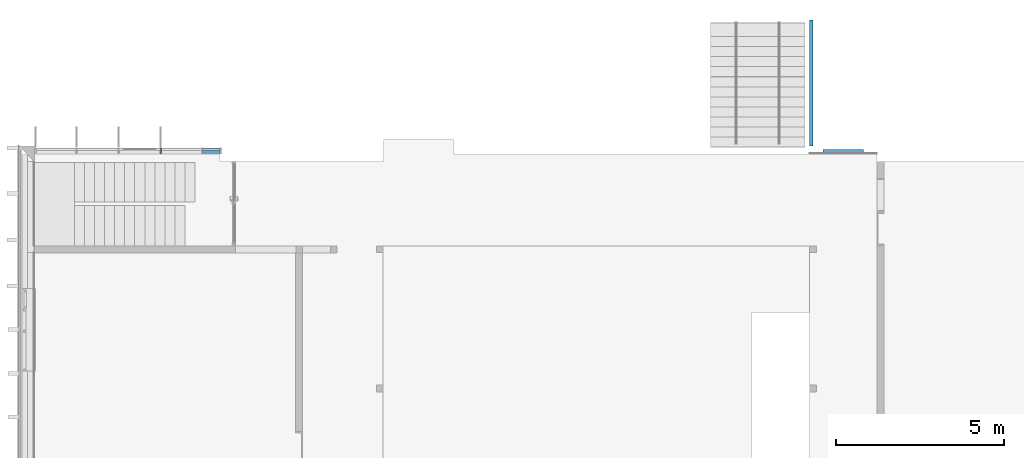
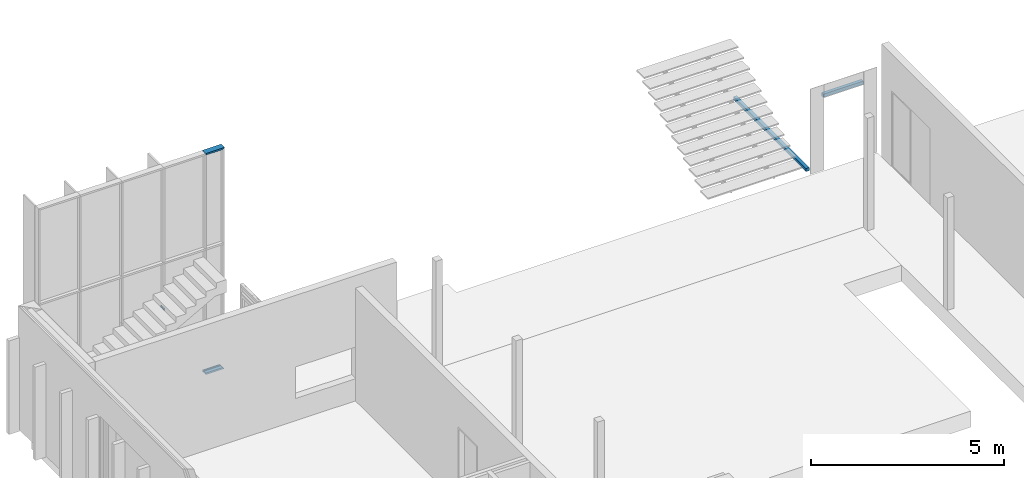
# One storey, part 6 of 65: 3 members, 2 beams, 1 element without a shape of its own.
"""IFC2X3 building model written with IfcOpenShell, lengths in millimetres."""

from ifc_helpers import new_model, entity, si_unit, converted_unit, derived_unit, money_unit, direction, frame, frame_2d, origin_with_axes, place, context, subcontext, project, spatial, polyline, rectangle, outline, extrude, clip, halfspace, material, type_object, element, aggregate, save


model = new_model("IFC2X3")

# Units and contexts
model_context = context("Model", 3, precision=0.01, world=origin_with_axes(), true_north=direction((0.0, 1.0)))
body_context = subcontext(model_context, "Body", "Model", "MODEL_VIEW")
ifc_project = project(units=[si_unit("LENGTHUNIT", "METRE", prefix="MILLI"), si_unit("AREAUNIT", "SQUARE_METRE"), si_unit("VOLUMEUNIT", "CUBIC_METRE"), converted_unit("PLANEANGLEUNIT", "DEGREE", entity("IfcPlaneAngleMeasure", 0.0174532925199), si_unit("PLANEANGLEUNIT", "RADIAN"), dimensions=[0, 0, 0, 0, 0, 0, 0]), si_unit("SOLIDANGLEUNIT", "STERADIAN"), money_unit("EUR"), converted_unit("TIMEUNIT", "Year", entity("IfcTimeMeasure", 31556926.0), si_unit("TIMEUNIT", "SECOND"), dimensions=[0, 0, 1, 0, 0, 0, 0]), si_unit("MASSUNIT", "GRAM", prefix="KILO"), si_unit("THERMODYNAMICTEMPERATUREUNIT", "DEGREE_CELSIUS"), si_unit("LUMINOUSINTENSITYUNIT", "LUMEN"), si_unit("ENERGYUNIT", "JOULE", prefix="MEGA"), derived_unit("THERMALCONDUCTANCEUNIT", [(si_unit("POWERUNIT", "WATT"), 1), (si_unit("LENGTHUNIT", "METRE"), -1), (si_unit("THERMODYNAMICTEMPERATUREUNIT", "KELVIN"), -1)]), derived_unit("SPECIFICHEATCAPACITYUNIT", [(si_unit("ENERGYUNIT", "JOULE"), 1), (si_unit("MASSUNIT", "GRAM", prefix="KILO"), -1), (si_unit("THERMODYNAMICTEMPERATUREUNIT", "KELVIN"), -1)]), derived_unit("MASSDENSITYUNIT", [(si_unit("MASSUNIT", "GRAM", prefix="KILO"), 1), (si_unit("VOLUMEUNIT", "CUBIC_METRE"), -1)])], contexts=[model_context])

# Site, building, storey
site_placement = place(None, origin_with_axes())
site = spatial("IfcSite", under=ifc_project, at=site_placement, Name="Puškini 31, Narva", CompositionType="ELEMENT")
building_placement = place(site_placement, origin_with_axes())
building = spatial("IfcBuilding", under=site, at=building_placement, Name="Narva Riigigümnaasium", CompositionType="ELEMENT")
storey_placement = place(building_placement, frame((0.0, 0.0, -1320.0), z_axis=(0.0, 0.0, 1.0), x_axis=(1.0, 0.0, 0.0)))
storey = spatial("IfcBuildingStorey", under=building, at=storey_placement, Name="1.korrus -1.32", CompositionType="ELEMENT", Elevation=-1320.0)

# Beams
ifc_material_1 = material(Name="ET-06_Teras - Konstruktsioon")
beam_type = type_object("IfcBeamType", Name="ET-06_Teras - Konstruktsioon 100 x 100", PredefinedType="BEAM")
beam_1_placement = place(storey_placement, frame((45499.9999993, 195150.0, 50.0), z_axis=(0.0, 0.0, 1.0), x_axis=(1.0, -1.8474252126e-10, 0.0)))
element("IfcBeam", 1, at=beam_1_placement, inside=storey, type_object=beam_type, material=ifc_material_1, Name="TALA", ObjectType="BEAM", context=body_context, shape_type="SweptSolid", body=[
    extrude(rectangle(XDim=100.0, YDim=100.0, at=frame_2d((-50.0, 50.0), x_axis=(1.0, 0.0))), frame((0.0, 0.0, 0.0), z_axis=(0.0, 1.0, 0.0), x_axis=(0.0, 0.0, 1.0)), (0.0, 0.0, 1.0), 3756.97132642),
])
beam_2_placement = place(storey_placement, frame((47099.9999993, 194950.0, 2380.00001822), z_axis=(0.0, 0.0, 1.0), x_axis=(0.0, 1.0, 0.0)))
element("IfcBeam", 2, at=beam_2_placement, inside=storey, type_object=beam_type, material=ifc_material_1, Name="TALA", ObjectType="BEAM", context=body_context, shape_type="SweptSolid", body=[
    extrude(rectangle(XDim=100.0, YDim=100.0, at=frame_2d((-50.0, 50.0), x_axis=(1.0, 0.0))), frame((0.0, 0.0, 0.0), z_axis=(0.0, 1.0, 0.0), x_axis=(0.0, 0.0, 1.0)), (0.0, 0.0, 1.0), 1200.0),
])

# Curtain wall, members
curtain_wall_type = type_object("IfcCurtainWallType", Name="Curtain Wall Type", PredefinedType="NOTDEFINED")
curtain_wall_placement = place(storey_placement, frame((23044.9999985, 195055.000005, -0.000275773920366), z_axis=(0.0, 0.0, 1.0), x_axis=(1.0, 0.0, 0.0)))
curtain_wall = element("IfcCurtainWall", 3, at=curtain_wall_placement, inside=storey, type_object=curtain_wall_type, Name="G-KLF-04")
ifc_material_2 = material(Name="ET-04_Alumiinium")
member_type = type_object("IfcMemberType", Name="Boundary Frame 50 x 176", PredefinedType="MULLION")
member_1_placement = place(curtain_wall_placement, frame((4375.0, 0.0, 0.0), z_axis=(1.0, 0.0, 0.0), x_axis=(0.0, 0.0, 1.0)))
member_1 = element("IfcMember", 4, at=member_1_placement, type_object=member_type, material=ifc_material_2, Name="klaasfassaadi raam", ObjectType="MULLION", context=body_context, shape_type="Clipping", body=[
    clip(extrude(outline(polyline([(29.0, -35.0), (29.0, -50.0), (130.0, -50.0), (130.0, 0.0), (-46.0, 0.0), (-46.0, -50.0), (-29.0, -50.0), (-29.0, -35.0), (29.0, -35.0)])), frame((0.0, 0.0, 0.0), z_axis=(0.0, 0.0, 1.0), x_axis=(0.0, 1.0, 0.0)), (0.0, 0.0, 1.0), 560.040175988), halfspace(frame((280.020087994, 0.0, 280.020087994), z_axis=(-0.707106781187, 0.0, -0.707106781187), x_axis=(0.0, 1.0, 0.0)), True)),
])
member_2_placement = place(curtain_wall_placement, frame((4375.0, 0.0, 6990.0001879), z_axis=(1.0, 0.0, 0.0), x_axis=(0.0, 0.0, 1.0)))
member_2 = element("IfcMember", 5, at=member_2_placement, type_object=member_type, material=ifc_material_2, Name="klaasfassaadi raam", ObjectType="MULLION", context=body_context, shape_type="Clipping", body=[
    clip(extrude(outline(polyline([(29.0, 35.0), (-29.0, 35.0), (-29.0, 50.0), (-46.0, 50.0), (-46.0, 0.0), (130.0, 0.0), (130.0, 50.0), (29.0, 50.0), (29.0, 35.0)])), frame((0.0, 0.0, 0.0), z_axis=(0.0, 0.0, 1.0), x_axis=(0.0, 1.0, 0.0)), (0.0, 0.0, 1.0), 560.040175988), halfspace(frame((-280.020087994, 0.0, 280.020087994), z_axis=(0.707106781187, 0.0, -0.707106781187), x_axis=(0.0, 1.0, 0.0)), True)),
])
member_3_placement = place(curtain_wall_placement, frame((3125.0, 0.0, 2500.00029921), z_axis=(1.0, 0.0, 1.23591394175e-07), x_axis=(-1.23591394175e-07, 0.0, 1.0)))
member_3 = element("IfcMember", 6, at=member_3_placement, type_object=member_type, material=ifc_material_2, Name="klaasfassaadi raam", ObjectType="MULLION", context=body_context, shape_type="SweptSolid", body=[
    extrude(outline(polyline([(29.0, 10.0000030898), (-29.0, 10.0000030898), (-29.0, 25.0000030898), (-46.0, 25.0000030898), (-46.0, -24.9999969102), (-29.0, -24.9999969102), (-29.0, -9.99999691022), (29.0, -9.99999691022), (29.0, -24.9999969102), (130.0, -24.9999969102), (130.0, 25.0000030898), (29.0, 25.0000030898), (29.0, 10.0000030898)])), frame((0.0, 0.0, -6.24262597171e-06), z_axis=(0.0, 0.0, 1.0), x_axis=(0.0, 1.0, 0.0)), (0.0, 0.0, 1.0), 24.9999951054),
])
aggregate(curtain_wall, [member_1, member_2, member_3])

save(model, "model.ifc")
